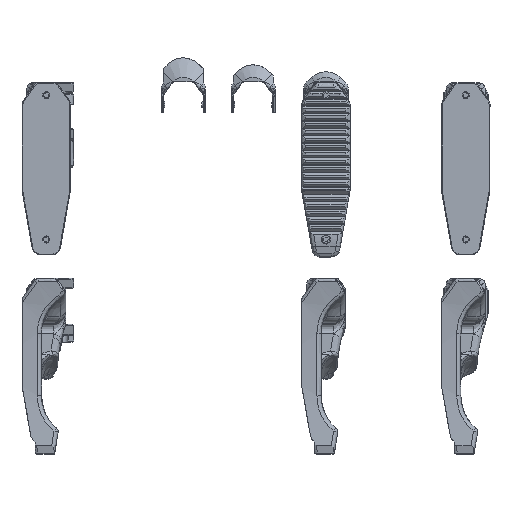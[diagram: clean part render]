
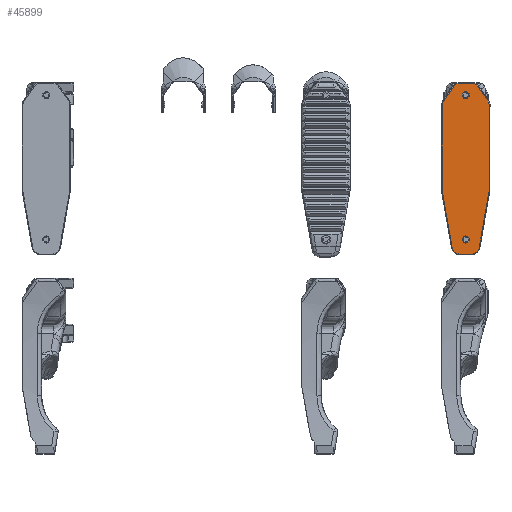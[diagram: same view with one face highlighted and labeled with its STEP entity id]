
A CAD part, left-side view. The second image highlights one B-rep face of the part: STEP entity #45899.
In plain terms, the highlighted planar face has unit normal (-1, 0, 0).
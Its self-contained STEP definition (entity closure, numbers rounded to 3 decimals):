
#1440=FACE_BOUND('',#9101,.T.);
#1441=FACE_BOUND('',#9102,.T.);
#2120=CIRCLE('',#49304,3.);
#2124=CIRCLE('',#49310,3.);
#2130=CIRCLE('',#49319,2.5);
#2138=CIRCLE('',#49335,2.5);
#2141=CIRCLE('',#49350,2.7);
#2142=CIRCLE('',#49351,2.7);
#3840=ELLIPSE('',#49324,5.122,5.);
#3842=ELLIPSE('',#49329,5.122,5.);
#6137=FACE_OUTER_BOUND('',#9100,.T.);
#9100=EDGE_LOOP('',(#34256,#34257,#34258,#34259,#34260,#34261,#34262,#34263,
#34264,#34265,#34266,#34267,#34268,#34269,#34270,#34271));
#9101=EDGE_LOOP('',(#34272));
#9102=EDGE_LOOP('',(#34273));
#11917=B_SPLINE_CURVE_WITH_KNOTS('',3,(#80483,#80484,#80485,#80486),
 .UNSPECIFIED.,.F.,.F.,(4,4),(-2.827,-2.579),
 .UNSPECIFIED.);
#11919=B_SPLINE_CURVE_WITH_KNOTS('',3,(#80583,#80584,#80585,#80586),
 .UNSPECIFIED.,.F.,.F.,(4,4),(-0.278,0.),.UNSPECIFIED.);
#14073=LINE('',#80534,#16411);
#14075=LINE('',#80546,#16413);
#14077=LINE('',#80558,#16415);
#14079=LINE('',#80595,#16417);
#14081=LINE('',#80607,#16419);
#14083=LINE('',#80648,#16421);
#14085=LINE('',#80689,#16423);
#14087=LINE('',#80698,#16425);
#16411=VECTOR('',#56059,10.);
#16413=VECTOR('',#56073,10.);
#16415=VECTOR('',#56087,10.);
#16417=VECTOR('',#56095,10.);
#16419=VECTOR('',#56109,10.);
#16421=VECTOR('',#56121,10.);
#16423=VECTOR('',#56133,10.);
#16425=VECTOR('',#56145,10.);
#19415=VERTEX_POINT('',#80480);
#19416=VERTEX_POINT('',#80482);
#19418=VERTEX_POINT('',#80532);
#19420=VERTEX_POINT('',#80538);
#19422=VERTEX_POINT('',#80544);
#19424=VERTEX_POINT('',#80550);
#19426=VERTEX_POINT('',#80556);
#19428=VERTEX_POINT('',#80581);
#19430=VERTEX_POINT('',#80593);
#19432=VERTEX_POINT('',#80599);
#19434=VERTEX_POINT('',#80605);
#19436=VERTEX_POINT('',#80640);
#19438=VERTEX_POINT('',#80646);
#19440=VERTEX_POINT('',#80681);
#19442=VERTEX_POINT('',#80687);
#19444=VERTEX_POINT('',#80693);
#19468=VERTEX_POINT('',#80813);
#19469=VERTEX_POINT('',#80815);
#24672=EDGE_CURVE('',#19415,#19416,#11917,.T.);
#24675=EDGE_CURVE('',#19418,#19415,#14073,.T.);
#24678=EDGE_CURVE('',#19420,#19418,#2120,.T.);
#24681=EDGE_CURVE('',#19422,#19420,#14075,.T.);
#24684=EDGE_CURVE('',#19424,#19422,#2124,.T.);
#24687=EDGE_CURVE('',#19426,#19424,#14077,.T.);
#24690=EDGE_CURVE('',#19428,#19426,#11919,.T.);
#24693=EDGE_CURVE('',#19430,#19428,#14079,.T.);
#24696=EDGE_CURVE('',#19432,#19430,#2130,.T.);
#24699=EDGE_CURVE('',#19434,#19432,#14081,.T.);
#24702=EDGE_CURVE('',#19436,#19434,#3840,.T.);
#24705=EDGE_CURVE('',#19438,#19436,#14083,.T.);
#24708=EDGE_CURVE('',#19440,#19438,#3842,.T.);
#24711=EDGE_CURVE('',#19442,#19440,#14085,.T.);
#24714=EDGE_CURVE('',#19444,#19442,#2138,.T.);
#24716=EDGE_CURVE('',#19416,#19444,#14087,.T.);
#24749=EDGE_CURVE('',#19468,#19468,#2141,.T.);
#24750=EDGE_CURVE('',#19469,#19469,#2142,.T.);
#34256=ORIENTED_EDGE('',*,*,#24672,.F.);
#34257=ORIENTED_EDGE('',*,*,#24675,.F.);
#34258=ORIENTED_EDGE('',*,*,#24678,.F.);
#34259=ORIENTED_EDGE('',*,*,#24681,.F.);
#34260=ORIENTED_EDGE('',*,*,#24684,.F.);
#34261=ORIENTED_EDGE('',*,*,#24687,.F.);
#34262=ORIENTED_EDGE('',*,*,#24690,.F.);
#34263=ORIENTED_EDGE('',*,*,#24693,.F.);
#34264=ORIENTED_EDGE('',*,*,#24696,.F.);
#34265=ORIENTED_EDGE('',*,*,#24699,.F.);
#34266=ORIENTED_EDGE('',*,*,#24702,.F.);
#34267=ORIENTED_EDGE('',*,*,#24705,.F.);
#34268=ORIENTED_EDGE('',*,*,#24708,.F.);
#34269=ORIENTED_EDGE('',*,*,#24711,.F.);
#34270=ORIENTED_EDGE('',*,*,#24714,.F.);
#34271=ORIENTED_EDGE('',*,*,#24716,.F.);
#34272=ORIENTED_EDGE('',*,*,#24749,.F.);
#34273=ORIENTED_EDGE('',*,*,#24750,.F.);
#44589=PLANE('',#49349);
#45899=ADVANCED_FACE('',(#6137,#1440,#1441),#44589,.T.);
#49304=AXIS2_PLACEMENT_3D('',#80540,#56065,#56066);
#49310=AXIS2_PLACEMENT_3D('',#80552,#56079,#56080);
#49319=AXIS2_PLACEMENT_3D('',#80601,#56101,#56102);
#49324=AXIS2_PLACEMENT_3D('',#80642,#56113,#56114);
#49329=AXIS2_PLACEMENT_3D('',#80683,#56125,#56126);
#49335=AXIS2_PLACEMENT_3D('',#80695,#56139,#56140);
#49349=AXIS2_PLACEMENT_3D('',#80812,#56185,#56186);
#49350=AXIS2_PLACEMENT_3D('',#80814,#56187,#56188);
#49351=AXIS2_PLACEMENT_3D('',#80816,#56189,#56190);
#56059=DIRECTION('',(0.,-0.581,-0.814));
#56065=DIRECTION('center_axis',(1.,0.,0.));
#56066=DIRECTION('ref_axis',(0.,-0.458,0.889));
#56073=DIRECTION('',(0.,-1.,0.001));
#56079=DIRECTION('center_axis',(1.,0.,0.));
#56080=DIRECTION('ref_axis',(0.,0.459,0.888));
#56087=DIRECTION('',(0.,-0.579,0.815));
#56095=DIRECTION('',(0.,0.001,1.));
#56101=DIRECTION('center_axis',(1.,0.,0.));
#56102=DIRECTION('ref_axis',(0.,0.996,-0.088));
#56109=DIRECTION('',(0.,0.174,0.985));
#56113=DIRECTION('center_axis',(1.,0.,0.));
#56114=DIRECTION('ref_axis',(0.,-0.174,-0.985));
#56121=DIRECTION('',(0.,1.,-0.001));
#56125=DIRECTION('center_axis',(1.,0.,0.));
#56126=DIRECTION('ref_axis',(0.,0.174,-0.985));
#56133=DIRECTION('',(0.,0.174,-0.985));
#56139=DIRECTION('center_axis',(1.,0.,0.));
#56140=DIRECTION('ref_axis',(0.,-0.996,-0.087));
#56145=DIRECTION('',(0.,0.,-1.));
#56185=DIRECTION('center_axis',(-1.,0.,0.));
#56186=DIRECTION('ref_axis',(0.,0.,1.));
#56187=DIRECTION('center_axis',(-1.,0.,0.));
#56188=DIRECTION('ref_axis',(0.,0.,-1.));
#56189=DIRECTION('center_axis',(-1.,0.,0.));
#56190=DIRECTION('ref_axis',(0.,0.003,1.));
#80480=CARTESIAN_POINT('',(-211.,-96.995,58.672));
#80482=CARTESIAN_POINT('',(-211.,-97.821,56.359));
#80483=CARTESIAN_POINT('Ctrl Pts',(-211.,-96.995,58.672));
#80484=CARTESIAN_POINT('Ctrl Pts',(-211.,-97.477,57.997));
#80485=CARTESIAN_POINT('Ctrl Pts',(-211.,-97.766,57.187));
#80486=CARTESIAN_POINT('Ctrl Pts',(-211.,-97.821,56.359));
#80532=CARTESIAN_POINT('',(-211.,-88.839,70.112));
#80534=CARTESIAN_POINT('',(-211.,-105.874,46.219));
#80538=CARTESIAN_POINT('',(-211.,-86.394,71.37));
#80540=CARTESIAN_POINT('Origin',(-211.,-86.396,68.37));
#80544=CARTESIAN_POINT('',(-211.,-75.51,71.362));
#80546=CARTESIAN_POINT('',(-211.,-84.174,71.368));
#80550=CARTESIAN_POINT('',(-211.,-73.067,70.1));
#80552=CARTESIAN_POINT('Origin',(-211.,-75.512,68.362));
#80556=CARTESIAN_POINT('',(-211.,-64.927,58.651));
#80558=CARTESIAN_POINT('',(-211.,-60.454,52.359));
#80581=CARTESIAN_POINT('',(-211.,-64.095,56.04));
#80583=CARTESIAN_POINT('Ctrl Pts',(-211.,-64.095,56.04));
#80584=CARTESIAN_POINT('Ctrl Pts',(-211.,-64.094,56.968));
#80585=CARTESIAN_POINT('Ctrl Pts',(-211.,-64.389,57.894));
#80586=CARTESIAN_POINT('Ctrl Pts',(-211.,-64.927,58.651));
#80593=CARTESIAN_POINT('',(-211.,-64.138,-5.262));
#80595=CARTESIAN_POINT('',(-211.,-64.111,32.853));
#80599=CARTESIAN_POINT('',(-211.,-64.176,-5.695));
#80601=CARTESIAN_POINT('Origin',(-211.,-66.638,-5.261));
#80605=CARTESIAN_POINT('',(-211.,-71.382,-46.559));
#80607=CARTESIAN_POINT('',(-211.,-65.576,-13.635));
#80640=CARTESIAN_POINT('',(-211.,-76.351,-50.809));
#80642=CARTESIAN_POINT('Origin',(-211.,-76.306,-45.691));
#80646=CARTESIAN_POINT('',(-211.,-85.55,-50.803));
#80648=CARTESIAN_POINT('',(-211.,-72.34,-50.812));
#80681=CARTESIAN_POINT('',(-211.,-90.512,-46.553));
#80683=CARTESIAN_POINT('Origin',(-211.,-85.588,-45.684));
#80687=CARTESIAN_POINT('',(-211.,-97.783,-5.314));
#80689=CARTESIAN_POINT('',(-211.,-99.819,6.232));
#80693=CARTESIAN_POINT('',(-211.,-97.821,-4.88));
#80695=CARTESIAN_POINT('Origin',(-211.,-95.321,-4.88));
#80698=CARTESIAN_POINT('',(-211.,-97.821,6.665));
#80812=CARTESIAN_POINT('Origin',(-211.,-80.967,9.678));
#80813=CARTESIAN_POINT('',(-211.,-80.953,65.581));
#80814=CARTESIAN_POINT('Origin',(-211.,-80.953,62.881));
#80815=CARTESIAN_POINT('',(-211.,-80.959,-37.661));
#80816=CARTESIAN_POINT('Origin',(-211.,-80.959,-40.361));
